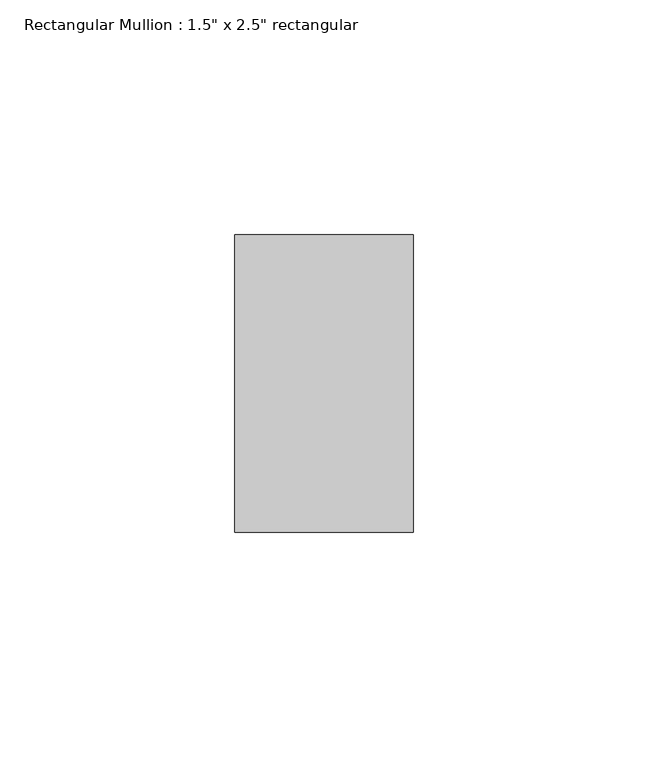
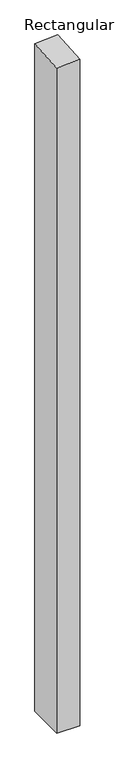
"""IFC4 building model written with IfcOpenShell, lengths in millimetres: member geometry."""

from ifc_helpers import new_model, si_unit, origin, place, context, project, spatial, faceted_brep, source, transform, mapped, element, save


def member_2f7d4205(model_context):
    return source(origin(), model_context, "Body", "Brep", [
        faceted_brep([(19.05, 31.75, -1179.1101082), (19.05, -31.75, -1179.1101082), (-19.05, -31.75, -1179.1101082), (-19.05, 31.75, -1179.1101082), (-19.05, 31.75, 0.8491012), (19.05, 31.75, 3.4255331), (-19.05, -31.75, -3.4255331), (19.05, -31.75, -0.8491012)], [[[0, 1, 2, 3]], [[4, 5, 0, 3]], [[6, 4, 3, 2]], [[7, 6, 2, 1]], [[5, 7, 1, 0]], [[5, 4, 6, 7]]]),
    ])


if __name__ == "__main__":
    model = new_model("IFC4")
    model_context = context("Model", 3, world=origin())
    ifc_project = project(units=[si_unit("LENGTHUNIT", "METRE", prefix="MILLI")], contexts=[model_context])
    site = spatial("IfcSite", under=ifc_project)
    building = spatial("IfcBuilding", under=site)
    placement = place(None, origin())
    member_shape = member_2f7d4205(model_context)
    element("IfcMember", 1, ObjectType="Rectangular Mullion : 1.5\" x 2.5\" rectangular", at=placement, inside=building, context=model_context, shape_type="MappedRepresentation", body=[
        mapped(member_shape, transform((0.0, 0.0, 0.0), x_axis=(1.0, 0.0, 0.0), y_axis=(0.0, 1.0, 0.0), z_axis=(0.0, 0.0, 1.0))),
    ])
    save(model, "model.ifc")
